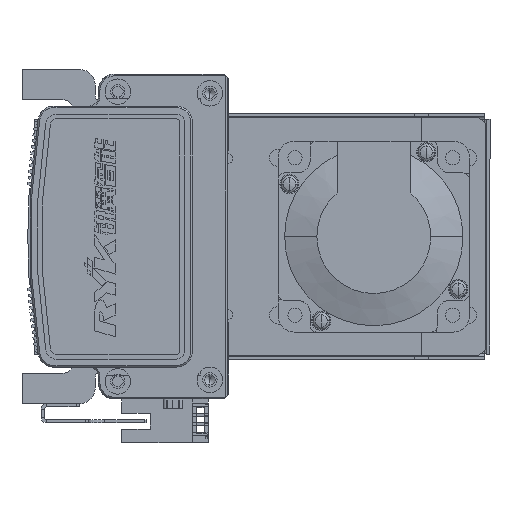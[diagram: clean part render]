
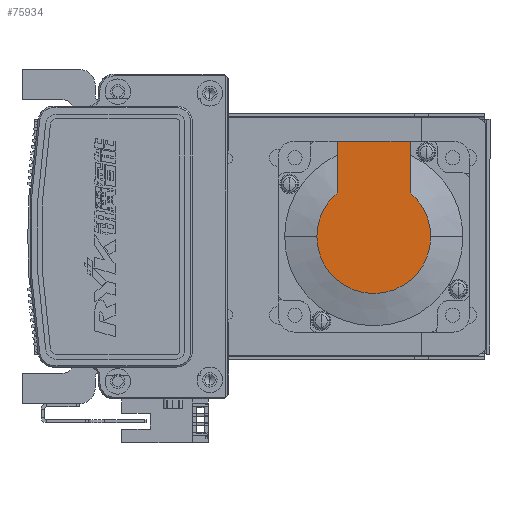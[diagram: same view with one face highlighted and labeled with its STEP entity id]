
A CAD part, left-side view. The second image highlights one B-rep face of the part: STEP entity #75934.
In plain terms, the highlighted planar face has unit normal (-1, 0, 0).
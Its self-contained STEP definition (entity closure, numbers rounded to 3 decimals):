
#214 = EDGE_CURVE ( 'NONE', #30260, #30255, #76751, .T. ) ;
#249 = EDGE_CURVE ( 'NONE', #30255, #30276, #76848, .T. ) ;
#261 = EDGE_CURVE ( 'NONE', #30611, #30276, #76816, .T. ) ;
#272 = EDGE_CURVE ( 'NONE', #30598, #30611, #76838, .T. ) ;
#288 = EDGE_CURVE ( 'NONE', #30598, #30605, #76914, .T. ) ;
#751 = EDGE_CURVE ( 'NONE', #30605, #30260, #77661, .T. ) ;
#2234 = CARTESIAN_POINT ( 'NONE',  ( -99., 0., 0. ) ) ;
#2263 = DIRECTION ( 'NONE',  ( -1., 0., 0. ) ) ;
#2316 = DIRECTION ( 'NONE',  ( 0., 0., -1. ) ) ;
#2471 = DIRECTION ( 'NONE',  ( -1., 0., 0. ) ) ;
#2483 = DIRECTION ( 'NONE',  ( 0., 0., -1. ) ) ;
#2490 = CARTESIAN_POINT ( 'NONE',  ( -99., 0., 0. ) ) ;
#2518 = DIRECTION ( 'NONE',  ( 0., -1., 0. ) ) ;
#2533 = CARTESIAN_POINT ( 'NONE',  ( -99., 0., 11.45 ) ) ;
#2541 = DIRECTION ( 'NONE',  ( 0., 0., 1. ) ) ;
#2565 = CARTESIAN_POINT ( 'NONE',  ( -99., 30., 25. ) ) ;
#2590 = CARTESIAN_POINT ( 'NONE',  ( -99., -8.941, -11.45 ) ) ;
#2666 = DIRECTION ( 'NONE',  ( 0., -1., 0. ) ) ;
#3191 = AXIS2_PLACEMENT_3D ( 'NONE', #2234, #2263, #2316 ) ;
#3226 = AXIS2_PLACEMENT_3D ( 'NONE', #2490, #2471, #2483 ) ;
#3385 = AXIS2_PLACEMENT_3D ( 'NONE', #78830, #78845, #78813 ) ;
#4014 = EDGE_LOOP ( 'NONE', ( #38718, #38748, #38762, #38834, #38728, #38815 ) ) ;
#8890 = FACE_OUTER_BOUND ( 'NONE', #4014, .T. ) ;
#10557 = DIRECTION ( 'NONE',  ( 0., 0., 1. ) ) ;
#10571 = CARTESIAN_POINT ( 'NONE',  ( -99., -8.941, 0. ) ) ;
#10591 = PLANE ( 'NONE',  #71073 ) ;
#10596 = DIRECTION ( 'NONE',  ( -1., 0., 0. ) ) ;
#30255 = VERTEX_POINT ( 'NONE', #67076 ) ;
#30260 = VERTEX_POINT ( 'NONE', #67096 ) ;
#30276 = VERTEX_POINT ( 'NONE', #67181 ) ;
#30598 = VERTEX_POINT ( 'NONE', #67721 ) ;
#30605 = VERTEX_POINT ( 'NONE', #67726 ) ;
#30611 = VERTEX_POINT ( 'NONE', #67741 ) ;
#38718 = ORIENTED_EDGE ( 'NONE', *, *, #288, .T. ) ;
#38728 = ORIENTED_EDGE ( 'NONE', *, *, #261, .F. ) ;
#38748 = ORIENTED_EDGE ( 'NONE', *, *, #751, .T. ) ;
#38762 = ORIENTED_EDGE ( 'NONE', *, *, #214, .T. ) ;
#38815 = ORIENTED_EDGE ( 'NONE', *, *, #272, .F. ) ;
#38834 = ORIENTED_EDGE ( 'NONE', *, *, #249, .T. ) ;
#67076 = CARTESIAN_POINT ( 'NONE',  ( -99., 0., 17.881 ) ) ;
#67096 = CARTESIAN_POINT ( 'NONE',  ( -99., 0., -17.881 ) ) ;
#67181 = CARTESIAN_POINT ( 'NONE',  ( -99., 13.735, 11.45 ) ) ;
#67721 = CARTESIAN_POINT ( 'NONE',  ( -99., 30., -11.45 ) ) ;
#67726 = CARTESIAN_POINT ( 'NONE',  ( -99., 13.735, -11.45 ) ) ;
#67741 = CARTESIAN_POINT ( 'NONE',  ( -99., 30., 11.45 ) ) ;
#71073 = AXIS2_PLACEMENT_3D ( 'NONE', #10571, #10596, #10557 ) ;
#75934 = ADVANCED_FACE ( 'NONE', ( #8890 ), #10591, .T. ) ;
#76751 = CIRCLE ( 'NONE', #3191, 17.881 ) ;
#76816 = LINE ( 'NONE', #2533, #76817 ) ;
#76817 = VECTOR ( 'NONE', #2518, 1000. ) ;
#76838 = LINE ( 'NONE', #2565, #76922 ) ;
#76848 = CIRCLE ( 'NONE', #3226, 17.881 ) ;
#76914 = LINE ( 'NONE', #2590, #76920 ) ;
#76920 = VECTOR ( 'NONE', #2666, 1000. ) ;
#76922 = VECTOR ( 'NONE', #2541, 1000. ) ;
#77661 = CIRCLE ( 'NONE', #3385, 17.881 ) ;
#78813 = DIRECTION ( 'NONE',  ( 0., 0., -1. ) ) ;
#78830 = CARTESIAN_POINT ( 'NONE',  ( -99., 0., 0. ) ) ;
#78845 = DIRECTION ( 'NONE',  ( -1., 0., 0. ) ) ;
